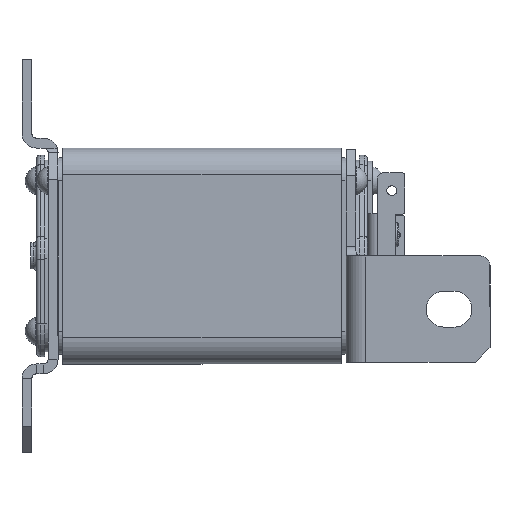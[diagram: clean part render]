
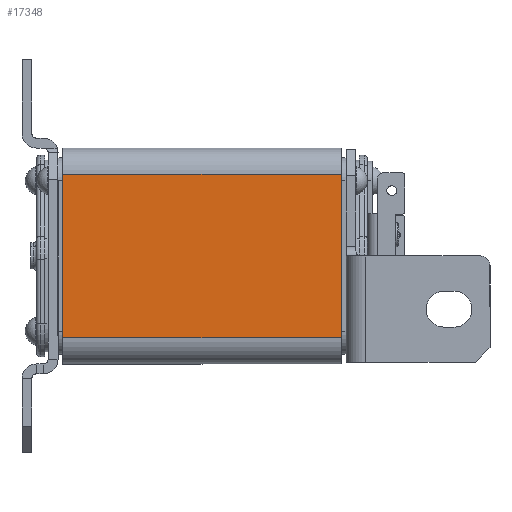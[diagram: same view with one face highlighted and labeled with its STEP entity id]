
A CAD part, left-side view. The second image highlights one B-rep face of the part: STEP entity #17348.
In plain terms, the highlighted planar face has unit normal (-1, 0, 0).
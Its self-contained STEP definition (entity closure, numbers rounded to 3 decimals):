
#463 = VECTOR ( 'NONE', #11640, 1000. ) ;
#1202 = CARTESIAN_POINT ( 'NONE',  ( -33., -42.5, 25. ) ) ;
#1561 = ORIENTED_EDGE ( 'NONE', *, *, #20043, .T. ) ;
#2169 = CARTESIAN_POINT ( 'NONE',  ( -33., -42.5, -25. ) ) ;
#3872 = VECTOR ( 'NONE', #6558, 1000. ) ;
#4453 = CARTESIAN_POINT ( 'NONE',  ( -33., -42.5, 25. ) ) ;
#4712 = VECTOR ( 'NONE', #19722, 1000. ) ;
#5387 = EDGE_LOOP ( 'NONE', ( #17794, #18751, #10161, #1561 ) ) ;
#5649 = FACE_OUTER_BOUND ( 'NONE', #5387, .T. ) ;
#5751 = CARTESIAN_POINT ( 'NONE',  ( -33., 42.5, 25. ) ) ;
#6050 = LINE ( 'NONE', #1202, #19497 ) ;
#6427 = LINE ( 'NONE', #5751, #463 ) ;
#6558 = DIRECTION ( 'NONE',  ( 0., 1., 0. ) ) ;
#7509 = EDGE_CURVE ( 'NONE', #22244, #22644, #14728, .T. ) ;
#8620 = DIRECTION ( 'NONE',  ( 1., 0., 0. ) ) ;
#10161 = ORIENTED_EDGE ( 'NONE', *, *, #7509, .F. ) ;
#11138 = VERTEX_POINT ( 'NONE', #17292 ) ;
#11640 = DIRECTION ( 'NONE',  ( 0., 0., -1. ) ) ;
#11773 = EDGE_CURVE ( 'NONE', #22644, #11138, #20069, .T. ) ;
#13210 = EDGE_CURVE ( 'NONE', #27395, #11138, #6427, .T. ) ;
#14728 = LINE ( 'NONE', #17491, #4712 ) ;
#15347 = PLANE ( 'NONE',  #16945 ) ;
#16485 = DIRECTION ( 'NONE',  ( 0., 1., 0. ) ) ;
#16945 = AXIS2_PLACEMENT_3D ( 'NONE', #4453, #8620, #28548 ) ;
#17292 = CARTESIAN_POINT ( 'NONE',  ( -33., 42.5, -25. ) ) ;
#17348 = ADVANCED_FACE ( 'NONE', ( #5649 ), #15347, .F. ) ;
#17467 = CARTESIAN_POINT ( 'NONE',  ( -33., -42.5, -25. ) ) ;
#17491 = CARTESIAN_POINT ( 'NONE',  ( -33., -42.5, 25. ) ) ;
#17794 = ORIENTED_EDGE ( 'NONE', *, *, #13210, .T. ) ;
#18751 = ORIENTED_EDGE ( 'NONE', *, *, #11773, .F. ) ;
#19200 = CARTESIAN_POINT ( 'NONE',  ( -33., 42.5, 25. ) ) ;
#19497 = VECTOR ( 'NONE', #16485, 1000. ) ;
#19722 = DIRECTION ( 'NONE',  ( 0., 0., -1. ) ) ;
#20043 = EDGE_CURVE ( 'NONE', #22244, #27395, #6050, .T. ) ;
#20069 = LINE ( 'NONE', #2169, #3872 ) ;
#22121 = CARTESIAN_POINT ( 'NONE',  ( -33., -42.5, 25. ) ) ;
#22244 = VERTEX_POINT ( 'NONE', #22121 ) ;
#22644 = VERTEX_POINT ( 'NONE', #17467 ) ;
#27395 = VERTEX_POINT ( 'NONE', #19200 ) ;
#28548 = DIRECTION ( 'NONE',  ( 0., 0., 1. ) ) ;
